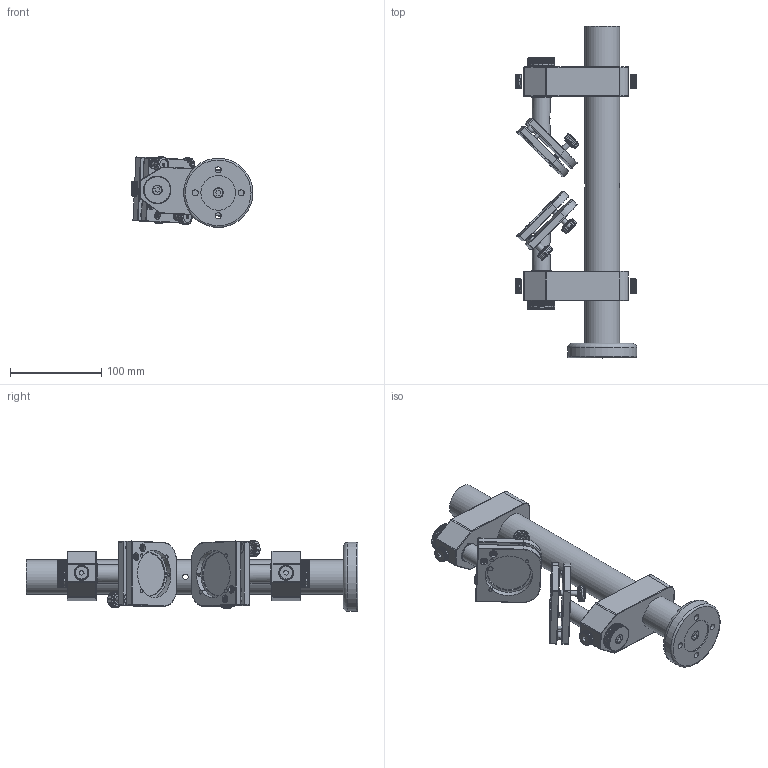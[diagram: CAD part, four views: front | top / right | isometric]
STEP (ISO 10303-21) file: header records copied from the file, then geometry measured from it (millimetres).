
FILE_DESCRIPTION (( 'STEP AP203' ), '1' );
FILE_NAME ('M-BSD-2A.step', '2017-01-11T09:35:07', ( '¦K¬P' ), ( '' ), 'SwSTEP 2.0', 'SolidWorks 2012', '' );
FILE_SCHEMA (( 'CONFIG_CONTROL_DESIGN' ));
Length unit declared in the file: millimetre
Products named in the file (1): M-BSD-2A
Bounding box: 133.63 x 364.35 x 77.84 mm (x, y, z)
Surface area: 152171.5 mm2 (no closed solid volume)
Topology: 0 solids, 90 shells, 1511 faces, 5372 edges, 3662 vertices
Faces by surface type: cylinder 646, plane 562, torus 182, bspline 80, cone 25, sphere 16
Full cylindrical faces by diameter (mm): 0.77 x1, 1 x2, 2 x1, 3 x2, 3.454 x2, 3.5 x4, 4 x10, 5 x7, 5.2 x1, 6 x5, 6.6 x4, 8.5 x8, 10 x5, 11 x7, 12 x5, 20 x3, 38 x1, 38.1 x1, 47 x2, 76 x1
Entity records: 61879 total; most frequent: CARTESIAN_POINT 19223, DIRECTION 8536, ORIENTED_EDGE 8235, EDGE_CURVE 5231, VERTEX_POINT 3644, AXIS2_PLACEMENT_3D 3399, CIRCLE 1967, EDGE_LOOP 1766
